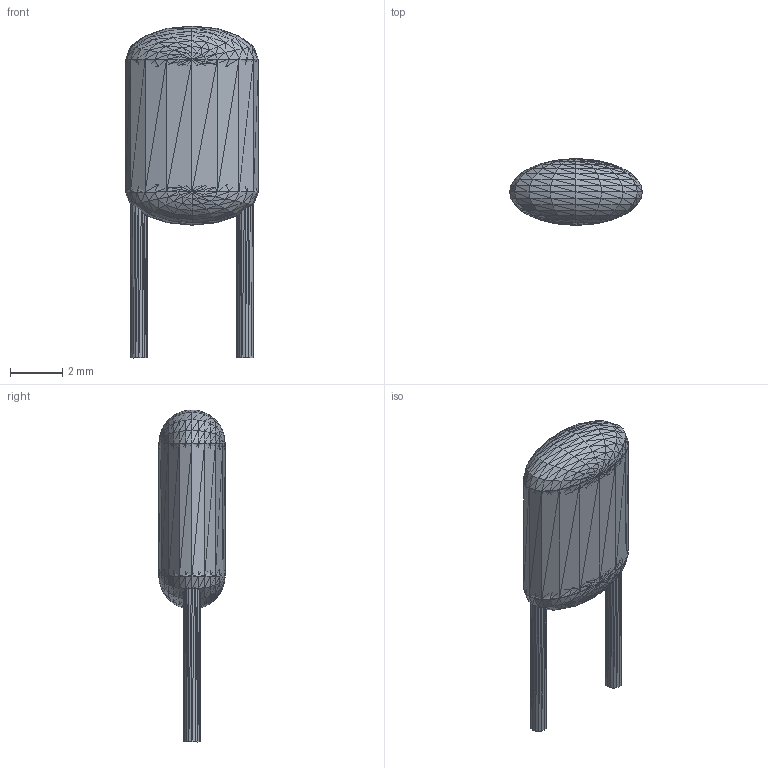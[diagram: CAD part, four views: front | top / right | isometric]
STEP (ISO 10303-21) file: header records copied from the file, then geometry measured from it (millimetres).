
FILE_DESCRIPTION(('HOOPS Exchange Step'),'2;1');
FILE_NAME('***.stp');
FILE_SCHEMA( ('AP242_MANAGED_MODEL_BASED_3D_ENGINEERING_MIM_LF {1 0 10303 442 1 1 4 }') );
Length unit declared in the file: inch
Products named in the file (6): CAP300X200MIL_2; CAP300X200MIL_3; CAP300X200MIL_4; CAP300X200MIL_5; CAP300X200MIL_6; CAP300X200MIL
Assembly tree (5 placements, depth 2):
  CAP300X200MIL
    CAP300X200MIL_2
    CAP300X200MIL_3
    CAP300X200MIL_4
    CAP300X200MIL_5
    CAP300X200MIL_6
Bounding box: 5.08 x 2.54 x 12.7 mm (x, y, z)
Volume: 88 mm3; surface area: 181.3 mm2
Topology: 5 solids, 5 shells, 1152 faces, 1728 edges, 586 vertices
Faces by surface type: plane 1152
Entity records: 22736 total; most frequent: DIRECTION 4056, CARTESIAN_POINT 3478, ORIENTED_EDGE 3456, VECTOR 1728, LINE 1728, EDGE_CURVE 1728, AXIS2_PLACEMENT_3D 1164, PLANE 1152
